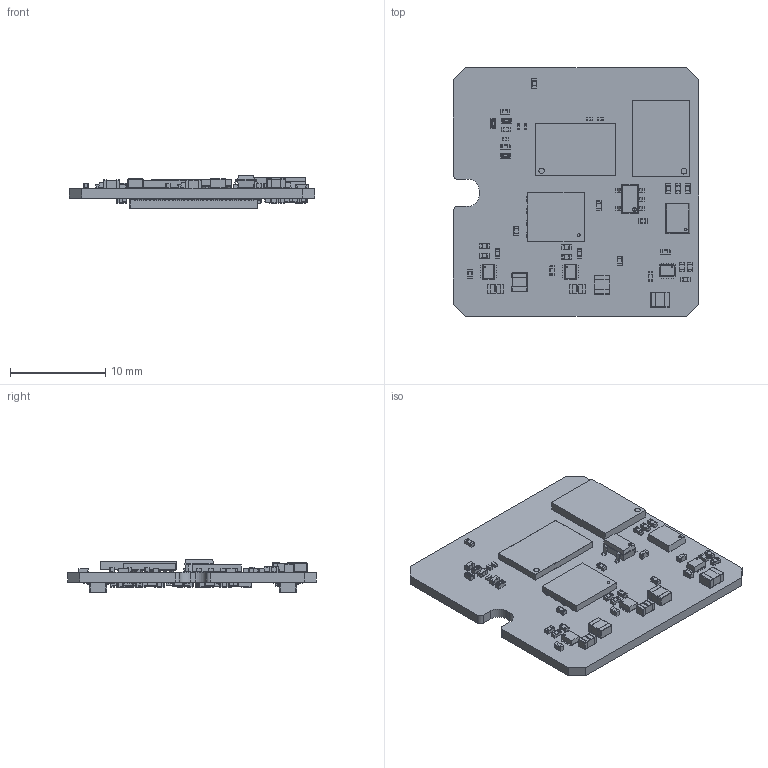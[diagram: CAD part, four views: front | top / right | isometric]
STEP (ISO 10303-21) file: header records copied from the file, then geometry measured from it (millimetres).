
FILE_DESCRIPTION(('Open CASCADE Model'),'2;1');
FILE_NAME('Open CASCADE Shape Model','2025-06-21T12:12:36',('Author'),( 'Open CASCADE'),'Open CASCADE STEP processor 6.8','Open CASCADE 6.8' ,'Unknown');
FILE_SCHEMA(('AUTOMOTIVE_DESIGN { 1 0 10303 214 1 1 1 1 }'));
Products named in the file (1): PCB
Bounding box: 25.78 x 26.16 x 3.55 mm (x, y, z)
Volume: 799.3 mm3; surface area: 2574.6 mm2
Topology: 423 solids, 957 shells, 8841 faces, 22843 edges, 14353 vertices
Faces by surface type: plane 4607, cylinder 3134, sphere 1064, torus 26, cone 8, bspline 2
Full cylindrical faces by diameter (mm): 0.15 x3, 0.3 x2
Entity records: 266105 total; most frequent: CARTESIAN_POINT 48928, DIRECTION 44603, ORIENTED_EDGE 41490, EDGE_CURVE 21801, AXIS2_PLACEMENT_3D 14920, LINE 14763, VECTOR 14763, VERTEX_POINT 14353
